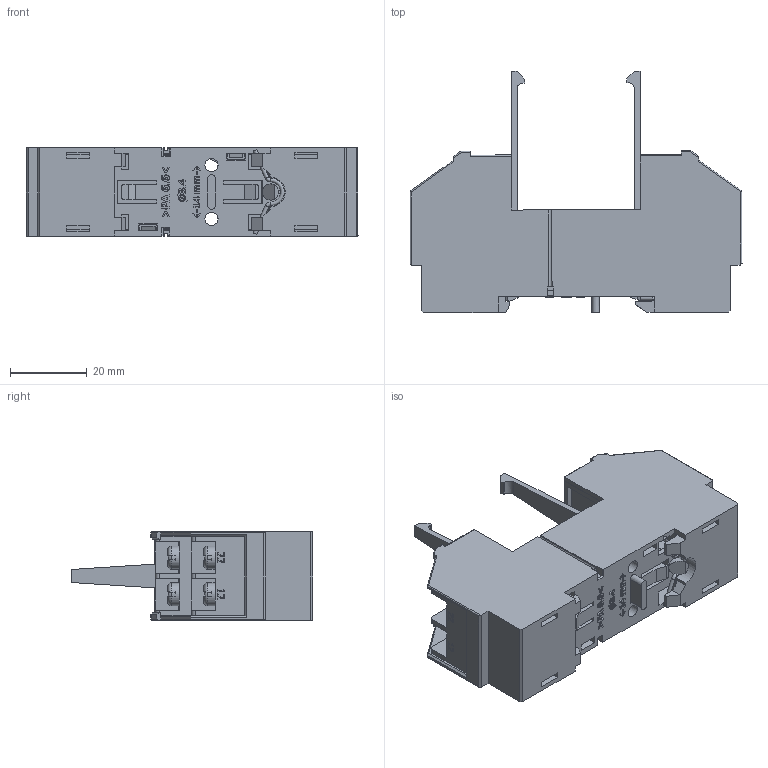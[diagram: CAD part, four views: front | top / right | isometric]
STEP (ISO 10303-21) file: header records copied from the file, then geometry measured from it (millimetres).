
FILE_DESCRIPTION(/* description */ (''),/* implementation_level */ '2;1');
FILE_NAME(/* name */ 'I:\TI\Bibliotheek\Inventor\Relais voeten\V16\V16.stp',/* time_stamp */ '2014-05-23T11:53:36+02:00',/* author */ ('noey'),/* organization */ (''),/* preprocessor_version */ 'ST-DEVELOPER v15.2',/* originating_system */ 'Autodesk Inventor 2014',/* authorisation */ '');
FILE_SCHEMA (('AUTOMOTIVE_DESIGN { 1 0 10303 214 3 1 1 }'));
Products named in the file (1): V16
Bounding box: 86.23 x 62.71 x 23 mm (x, y, z)
Volume: 40597 mm3; surface area: 37078.9 mm2
Topology: 2 solids, 2 shells, 2283 faces, 6515 edges, 4255 vertices
Faces by surface type: plane 1628, cylinder 402, bspline 224, cone 17, torus 12
Full cylindrical faces by diameter (mm): 1 x2, 1.3 x8, 1.731 x8, 2 x8, 2.5 x1, 2.7 x8, 3.4 x3, 6 x8
Entity records: 78906 total; most frequent: CARTESIAN_POINT 18590, ORIENTED_EDGE 12858, DIRECTION 10739, EDGE_CURVE 6422, LINE 4997, VECTOR 4997, VERTEX_POINT 4231, AXIS2_PLACEMENT_3D 2871
